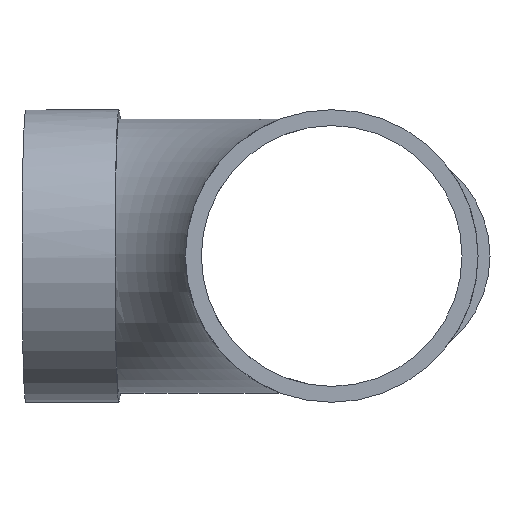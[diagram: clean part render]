
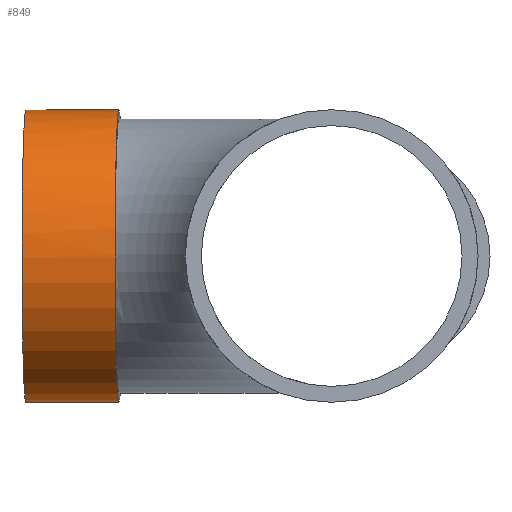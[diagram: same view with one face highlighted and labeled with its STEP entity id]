
A CAD part, front view. The second image highlights one B-rep face of the part: STEP entity #849.
In plain terms, the highlighted cylindrical face has radius 55 mm (diameter 110 mm), a full revolution.
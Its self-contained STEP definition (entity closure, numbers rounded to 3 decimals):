
#106=B_SPLINE_CURVE_WITH_KNOTS($,3,(#1633,#1634,#1635,#1636),
 .UNSPECIFIED.,.F.,.F.,(4,4),(2.741,2.903),
 .UNSPECIFIED.);
#126=CYLINDRICAL_SURFACE($,#975,55.);
#161=FACE_BOUND($,#296,.T.);
#211=FACE_OUTER_BOUND($,#295,.T.);
#295=EDGE_LOOP($,(#732,#733));
#296=EDGE_LOOP($,(#734));
#362=CIRCLE($,#972,55.);
#363=CIRCLE($,#974,55.);
#432=VERTEX_POINT($,#1631);
#433=VERTEX_POINT($,#1632);
#434=VERTEX_POINT($,#1711);
#531=EDGE_CURVE($,#432,#433,#106,.T.);
#533=EDGE_CURVE($,#433,#432,#362,.T.);
#534=EDGE_CURVE($,#434,#434,#363,.T.);
#732=ORIENTED_EDGE($,*,*,#531,.T.);
#733=ORIENTED_EDGE($,*,*,#533,.T.);
#734=ORIENTED_EDGE($,*,*,#534,.F.);
#849=ADVANCED_FACE($,(#211,#161),#126,.T.);
#972=AXIS2_PLACEMENT_3D($,#1709,#1244,#1245);
#974=AXIS2_PLACEMENT_3D($,#1712,#1248,#1249);
#975=AXIS2_PLACEMENT_3D($,#1713,#1250,#1251);
#1244=DIRECTION('center_axis',(-1.,0.026,0.));
#1245=DIRECTION('ref_axis',(-0.026,-1.,0.));
#1248=DIRECTION('center_axis',(-1.,0.026,0.));
#1249=DIRECTION('ref_axis',(-0.026,-1.,0.));
#1250=DIRECTION('center_axis',(1.,-0.026,0.));
#1251=DIRECTION('ref_axis',(-0.026,-1.,0.));
#1631=CARTESIAN_POINT('',(-81.412,82.119,-0.806));
#1632=CARTESIAN_POINT('',(-81.412,82.119,0.806));
#1633=CARTESIAN_POINT('Ctrl Pts',(-81.412,82.119,-0.806));
#1634=CARTESIAN_POINT('Ctrl Pts',(-81.415,82.111,-0.269));
#1635=CARTESIAN_POINT('Ctrl Pts',(-81.415,82.111,0.269));
#1636=CARTESIAN_POINT('Ctrl Pts',(-81.412,82.119,0.806));
#1709=CARTESIAN_POINT('Origin',(-79.973,137.094,0.));
#1711=CARTESIAN_POINT('',(-113.521,192.992,0.));
#1712=CARTESIAN_POINT('Origin',(-114.961,138.01,0.));
#1713=CARTESIAN_POINT('Origin',(-114.961,138.01,0.));
